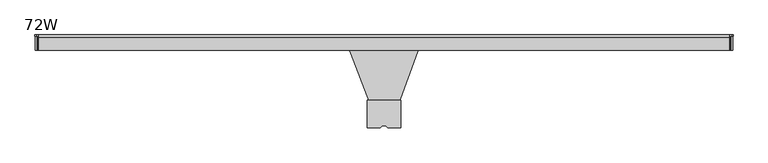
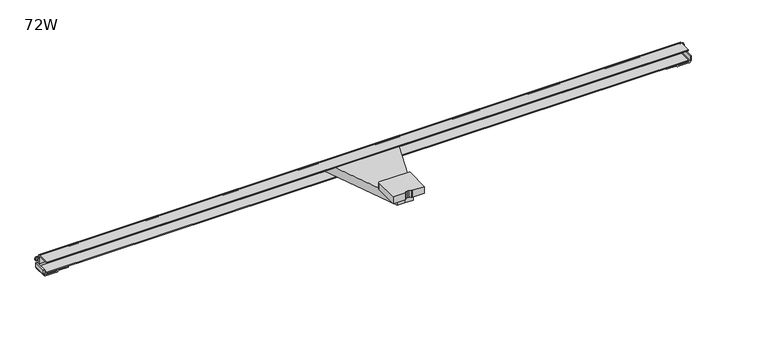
"""IFC4 building model written with IfcOpenShell, lengths in millimetres: furniture geometry, Steelcase Turnstone - Bivi - Accessories - Monitor Arm Table Mount : 72W."""

import ifcopenshell
import ifcopenshell.guid

model = None  # the IFC model being written
_history = None  # IfcOwnerHistory: only IFC2X3 demands one
_inside = {}  # id of a spatial element -> (the spatial element, [elements in it])
_under = {}  # id of a project, library or spatial element -> (it, [spatial elements below it])
_declared = {}  # id of a project -> (the project, [libraries it declares])
_typed = {}  # id of a type object -> (the type object, [elements of that type])
_made_of = {}  # id of a material, layer set ... -> (it, [elements and type objects made of it])


def new_model(schema):
    """Start an empty IFC model of exactly this schema.

    Asked for "IFC4X3", IfcOpenShell would pick the latest addendum, in which some entities
    have other attributes; the version numbers below select the first issue.
    IFC2X3 requires an IfcOwnerHistory on every rooted entity: one is made here for all.
    """
    global model, _history
    if schema == "IFC4X3":
        model = ifcopenshell.file(schema_version=(4, 3, 0, 0))
    else:
        model = ifcopenshell.file(schema=schema)
    _inside.clear()
    _under.clear()
    _declared.clear()
    _typed.clear()
    _made_of.clear()
    _history = None
    if model.schema == "IFC2X3":
        org = make("IfcOrganization", Name="unknown")
        user = make(
            "IfcPersonAndOrganization",
            ThePerson=make("IfcPerson", FamilyName="unknown"),
            TheOrganization=org,
        )
        app = make(
            "IfcApplication",
            ApplicationDeveloper=org,
            Version="unknown",
            ApplicationFullName="unknown",
            ApplicationIdentifier="unknown",
        )
        _history = make(
            "IfcOwnerHistory",
            OwningUser=user,
            OwningApplication=app,
            ChangeAction="ADDED",
            CreationDate=0,
        )
    return model


def make(cls, **values):
    """One entity of the class cls with the attributes given. An attribute that is None is left unset."""
    return model.create_entity(
        cls, **{name: value for name, value in values.items() if value is not None}
    )


def rooted(cls, **values):
    """An entity with a GlobalId (a new one), such as an element, a storey or a relation."""
    return make(cls, GlobalId=ifcopenshell.guid.new(), OwnerHistory=_history, **values)


def si_unit(unit_type, name, prefix=None):
    """IfcSIUnit, for example si_unit("LENGTHUNIT", "METRE", prefix="MILLI")."""
    return make("IfcSIUnit", UnitType=unit_type, Prefix=prefix, Name=name)


def assignment(units):
    """IfcUnitAssignment: the units of a project."""
    return None if units is None else make("IfcUnitAssignment", Units=units)


def point(xyz):
    """IfcCartesianPoint."""
    return None if xyz is None else make("IfcCartesianPoint", Coordinates=xyz)


def direction(xyz):
    """IfcDirection."""
    return None if xyz is None else make("IfcDirection", DirectionRatios=xyz)


def frame(location, z_axis=None, x_axis=None):
    """IfcAxis2Placement3D, a coordinate frame: its origin and axes. An axis left out is left unset."""
    return make(
        "IfcAxis2Placement3D",
        Location=point(location),
        Axis=direction(z_axis),
        RefDirection=direction(x_axis),
    )


def frame_2d(location, x_axis=None):
    """IfcAxis2Placement2D, a coordinate frame in the plane: its origin and x axis."""
    return make(
        "IfcAxis2Placement2D", Location=point(location), RefDirection=direction(x_axis)
    )


def origin():
    """The frame at (0, 0, 0) with its axes left unset."""
    return frame((0.0, 0.0, 0.0))


def place(relative_to, where):
    """IfcLocalPlacement: puts the frame where relative to a parent placement (None: the world)."""
    return make(
        "IfcLocalPlacement", PlacementRelTo=relative_to, RelativePlacement=where
    )


def context(
    kind, dimensions, precision=None, world=None, true_north=None, identifier=None
):
    """IfcGeometricRepresentationContext, for example the 3D "Model" context."""
    return make(
        "IfcGeometricRepresentationContext",
        ContextIdentifier=identifier,
        ContextType=kind,
        CoordinateSpaceDimension=dimensions,
        Precision=precision,
        WorldCoordinateSystem=world,
        TrueNorth=true_north,
    )


def project(units=None, contexts=None):
    """IfcProject with its units and contexts."""
    return rooted(
        "IfcProject",
        Name="project",
        RepresentationContexts=contexts,
        UnitsInContext=assignment(units),
    )


def spatial(cls, under=None, at=None, **own):
    """A site, building, storey or space (cls), placed at a placement, below another one or the project."""
    s = rooted(cls, ObjectPlacement=at, **own)
    if under is not None:
        _under.setdefault(under.id(), (under, []))[1].append(s)
    return s


def polyline(points):
    """IfcPolyline through the points."""
    return make("IfcPolyline", Points=[point(p) for p in points])


def circle_curve(where, radius):
    """IfcCircle in the frame where."""
    return make("IfcCircle", Position=where, Radius=radius)


def trimmed(basis, trim1, trim2, sense, master):
    """IfcTrimmedCurve: the piece of a basis curve between two trims."""
    return make(
        "IfcTrimmedCurve",
        BasisCurve=basis,
        Trim1=trim1,
        Trim2=trim2,
        SenseAgreement=sense,
        MasterRepresentation=master,
    )


def segment(curve, same_sense, transition):
    """IfcCompositeCurveSegment."""
    return make(
        "IfcCompositeCurveSegment",
        Transition=transition,
        SameSense=same_sense,
        ParentCurve=curve,
    )


def composite_curve(segments, self_intersect=None):
    """IfcCompositeCurve: segments joined end to end."""
    return make("IfcCompositeCurve", Segments=segments, SelfIntersect=self_intersect)


def outline(outer, holes=None, kind="AREA"):
    """IfcArbitraryClosedProfileDef: a profile drawn as a closed curve; with holes, ...WithVoids."""
    if holes is None:
        return make("IfcArbitraryClosedProfileDef", ProfileType=kind, OuterCurve=outer)
    return make(
        "IfcArbitraryProfileDefWithVoids",
        ProfileType=kind,
        OuterCurve=outer,
        InnerCurves=holes,
    )


def extrude(swept, where, along, depth):
    """IfcExtrudedAreaSolid: the profile swept, set in the frame where, extruded along a direction by depth."""
    return make(
        "IfcExtrudedAreaSolid",
        SweptArea=swept,
        Position=where,
        ExtrudedDirection=direction(along),
        Depth=depth,
    )


def shape(context_of_items, identifier, shape_type, items):
    """IfcShapeRepresentation: the items that make up one representation, for example the "Body"."""
    return make(
        "IfcShapeRepresentation",
        ContextOfItems=context_of_items,
        RepresentationIdentifier=identifier,
        RepresentationType=shape_type,
        Items=items,
    )


def source(mapping_origin, context_of_items, identifier, shape_type, items):
    """IfcRepresentationMap: a shape defined once, which mapped items show again and again."""
    return make(
        "IfcRepresentationMap",
        MappingOrigin=mapping_origin,
        MappedRepresentation=shape(context_of_items, identifier, shape_type, items),
    )


def transform(
    local_origin,
    x_axis=None,
    y_axis=None,
    z_axis=None,
    scale=None,
    scale2=None,
    scale3=None,
    uniform=True,
):
    """IfcCartesianTransformationOperator3D, or its non-uniform kind. x_axis, y_axis, z_axis: its Axis1, 2, 3."""
    if uniform:
        return make(
            "IfcCartesianTransformationOperator3D",
            Axis1=direction(x_axis),
            Axis2=direction(y_axis),
            LocalOrigin=point(local_origin),
            Scale=scale,
            Axis3=direction(z_axis),
        )
    return make(
        "IfcCartesianTransformationOperator3DnonUniform",
        Axis1=direction(x_axis),
        Axis2=direction(y_axis),
        LocalOrigin=point(local_origin),
        Scale=scale,
        Axis3=direction(z_axis),
        Scale2=scale2,
        Scale3=scale3,
    )


def mapped(mapping_source, mapping_target):
    """IfcMappedItem: shows the shape of a source again, moved by a transform."""
    return make(
        "IfcMappedItem", MappingSource=mapping_source, MappingTarget=mapping_target
    )


def made_of(thing, what):
    """Note that an element or type object is made of a material, layer set ...; save() writes the relation."""
    if what is not None:
        _made_of.setdefault(what.id(), (what, []))[1].append(thing)
    return thing


def element(
    cls,
    number,
    at=None,
    inside=None,
    cuts=None,
    type_object=None,
    material=None,
    context=None,
    identifier="Body",
    shape_type=None,
    held_by="IfcProductDefinitionShape",
    body=None,
    shapes=None,
    **own,
):
    """One element of the class cls, such as IfcWall. Its Tag is "e" and its number.

    at: its placement. inside: the storey or other place that contains it. cuts: it is an
    opening in that element (IfcRelVoidsElement). A single representation is given by context,
    identifier, shape_type and body (its items); several are given by shapes. held_by: the class
    of the entity that holds the representations. save() writes the other relations.
    """
    e = rooted(cls, Tag="e%d" % number, ObjectPlacement=at, **own)
    if body is not None:
        shapes = [shape(context, identifier, shape_type, body)]
    if shapes is not None:
        e.Representation = make(held_by, Representations=shapes)
    if inside is not None:
        _inside.setdefault(inside.id(), (inside, []))[1].append(e)
    if cuts is not None:
        rooted(
            "IfcRelVoidsElement", RelatingBuildingElement=cuts, RelatedOpeningElement=e
        )
    if type_object is not None:
        _typed.setdefault(type_object.id(), (type_object, []))[1].append(e)
    return made_of(e, material)


def aggregate(whole, parts):
    """IfcRelAggregates: a whole, such as a stair, and the parts it consists of."""
    return rooted("IfcRelAggregates", RelatingObject=whole, RelatedObjects=parts)


def save(model, path):
    """Write the relations noted so far, then the file.

    IfcRelAggregates (storeys below a building ...), IfcRelContainedInSpatialStructure (elements
    in a storey), IfcRelDefinesByType, IfcRelAssociatesMaterial and IfcRelDeclares: one each for
    every whole, place, type object, material and project.
    """
    for whole, parts in _under.values():
        aggregate(whole, parts)
    for where, things in _inside.values():
        rooted(
            "IfcRelContainedInSpatialStructure",
            RelatedElements=things,
            RelatingStructure=where,
        )
    for kind, things in _typed.values():
        rooted("IfcRelDefinesByType", RelatedObjects=things, RelatingType=kind)
    for what, things in _made_of.values():
        rooted("IfcRelAssociatesMaterial", RelatedObjects=things, RelatingMaterial=what)
    for by, libraries in _declared.values():
        rooted("IfcRelDeclares", RelatingContext=by, RelatedDefinitions=libraries)
    model.write(path)


def furniture_72w_779c4fb6(model_context):
    return source(origin(), model_context, "Body", "SweptSolid", [
        extrude(outline(composite_curve([segment(trimmed(circle_curve(frame_2d((145.6975492, -269.8839501)), 2.257898), [point((145.6975492, -267.6260521))], [point((147.9554472, -269.8838873))], False, "CARTESIAN"), True, "CONTINUOUS"), segment(polyline([(147.9554472, -269.8838873), (147.9573046, -336.626034), (115.7071375, -336.626034)]), True, "CONTINUOUS"), segment(trimmed(circle_curve(frame_2d((115.7071375, -334.3756531)), 2.2503809), [point((115.7071375, -336.626034))], [point((113.6913493, -335.3760591))], False, "CARTESIAN"), True, "CONTINUOUS"), segment(trimmed(circle_curve(frame_2d((107.6120183, -338.3931418)), 6.7868295), [point((113.6913493, -335.3760591))], [point((108.1291888, -331.6260458))], True, "CARTESIAN"), True, "CONTINUOUS"), segment(trimmed(circle_curve(frame_2d((106.0453771, -358.8923961)), 27.3458613), [point((108.1291888, -331.6260458))], [point((103.9615653, -331.6260458))], True, "CARTESIAN"), True, "CONTINUOUS"), segment(trimmed(circle_curve(frame_2d((104.4791205, -338.3981738)), 6.7918762), [point((103.9615653, -331.6260458))], [point((99.5126263, -333.7653003))], True, "CARTESIAN"), True, "CONTINUOUS"), segment(trimmed(circle_curve(frame_2d((104.4791205, -338.3981738)), 6.7918762), [point((99.5126263, -333.7653003))], [point((98.3973037, -335.3747509))], True, "CARTESIAN"), True, "CONTINUOUS"), segment(trimmed(circle_curve(frame_2d((96.3769126, -334.3703641)), 2.2562741), [point((98.3973037, -335.3747509))], [point((96.429124, -336.626034))], False, "CARTESIAN"), True, "CONTINUOUS"), segment(polyline([(96.429124, -336.626034), (64.1398681, -336.626034), (64.1398681, -269.8377216)]), True, "CONTINUOUS"), segment(trimmed(circle_curve(frame_2d((66.3515376, -269.8377216)), 2.2116695), [point((64.1398681, -269.8377216))], [point((66.3515376, -267.6260521))], False, "CARTESIAN"), True, "CONTINUOUS"), segment(polyline([(66.3515376, -267.6260521), (145.6975492, -267.6260521)]), True, "CONTINUOUS")], self_intersect=False)), frame((0.0, 0.0, 691.6834103), z_axis=(0.0, 0.0, 1.0), x_axis=(1.0, 0.0, 0.0)), (0.0, 0.0, 1.0), 19.3004151),
        extrude(outline(polyline([(128.3372341, -317.6260494), (106.045569, -317.6260494), (86.0600715, -317.6260494), (6.7352254, -107.7199906), (106.045569, -107.7199906), (204.7367915, -107.7199906), (128.3372341, -317.6260494)])), frame((0.0, 0.0, 667.38344), z_axis=(0.0, 0.0, 1.0), x_axis=(1.0, 0.0, 0.0)), (0.0, 0.0, 1.0), 24.2999702),
        extrude(outline(composite_curve([segment(polyline([(674.8332545, -762.8963634), (674.8332545, -765.936431), (663.5926927, -765.936431)]), True, "CONTINUOUS"), segment(trimmed(circle_curve(frame_2d((663.5926927, -759.1769502)), 6.7594808), [point((663.5926927, -765.936431))], [point((656.8332119, -759.1769502))], False, "CARTESIAN"), True, "CONTINUOUS"), segment(polyline([(656.8332119, -759.1769502), (656.8332119, -730.9364852)]), True, "CONTINUOUS"), segment(trimmed(circle_curve(frame_2d((662.9130886, -730.9364852)), 6.0798767), [point((656.8332119, -730.9364852))], [point((658.2556541, -727.0283904))], False, "CARTESIAN"), True, "CONTINUOUS"), segment(trimmed(circle_curve(frame_2d((650.1984046, -720.2674804)), 10.5180405), [point((658.2556541, -727.0283904))], [point((659.8731426, -724.3940551))], True, "CARTESIAN"), True, "CONTINUOUS"), segment(polyline([(659.8731426, -724.3940551), (659.8731426, -698.9940551), (662.9128796, -698.9940551), (662.9128796, -725.2067795)]), True, "CONTINUOUS"), segment(trimmed(circle_curve(frame_2d((658.7545906, -724.7825532)), 4.1798726), [point((662.9128796, -725.2067795))], [point((661.2761093, -728.1162116))], False, "CARTESIAN"), True, "CONTINUOUS"), segment(trimmed(circle_curve(frame_2d((663.4093131, -730.9364852)), 3.5361704), [point((661.2761093, -728.1162116))], [point((659.8731426, -730.9364852))], True, "CARTESIAN"), True, "CONTINUOUS"), segment(polyline([(659.8731426, -730.9364852), (659.8731426, -759.2415467)]), True, "CONTINUOUS"), segment(trimmed(circle_curve(frame_2d((663.5279593, -759.2415467)), 3.6548167), [point((659.8731426, -759.2415467))], [point((663.5279593, -762.8963634))], True, "CARTESIAN"), True, "CONTINUOUS"), segment(polyline([(663.5279593, -762.8963634), (674.8332545, -762.8963634)]), True, "CONTINUOUS")], self_intersect=False)), frame((0.0, -142.9290147, 0.0), z_axis=(0.0, 1.0, 0.0), x_axis=(0.0, 0.0, 1.0)), (0.0, 0.0, 1.0), 35.0600232),
        extrude(outline(composite_curve([segment(polyline([(674.8332545, 974.9875014), (663.5279593, 974.9875014)]), True, "CONTINUOUS"), segment(trimmed(circle_curve(frame_2d((663.5279593, 971.3326846)), 3.6548167), [point((663.5279593, 974.9875014))], [point((659.8731426, 971.3326846))], True, "CARTESIAN"), True, "CONTINUOUS"), segment(polyline([(659.8731426, 971.3326846), (659.8731426, 943.0276231)]), True, "CONTINUOUS"), segment(trimmed(circle_curve(frame_2d((663.4093131, 943.0276231)), 3.5361704), [point((659.8731426, 943.0276231))], [point((661.2761093, 940.2073495))], True, "CARTESIAN"), True, "CONTINUOUS"), segment(trimmed(circle_curve(frame_2d((658.7545906, 936.8736911)), 4.1798726), [point((661.2761093, 940.2073495))], [point((662.9128796, 937.2979175))], False, "CARTESIAN"), True, "CONTINUOUS"), segment(polyline([(662.9128796, 937.2979175), (662.9128796, 911.085193), (659.8731426, 911.085193), (659.8731426, 936.485193)]), True, "CONTINUOUS"), segment(trimmed(circle_curve(frame_2d((650.1984046, 932.3586183)), 10.5180405), [point((659.8731426, 936.485193))], [point((658.2556541, 939.1195283))], True, "CARTESIAN"), True, "CONTINUOUS"), segment(trimmed(circle_curve(frame_2d((662.9130886, 943.0276231)), 6.0798767), [point((658.2556541, 939.1195283))], [point((656.8332119, 943.0276231))], False, "CARTESIAN"), True, "CONTINUOUS"), segment(polyline([(656.8332119, 943.0276231), (656.8332119, 971.2680881)]), True, "CONTINUOUS"), segment(trimmed(circle_curve(frame_2d((663.5926927, 971.2680881)), 6.7594808), [point((656.8332119, 971.2680881))], [point((663.5926927, 978.027569))], False, "CARTESIAN"), True, "CONTINUOUS"), segment(polyline([(663.5926927, 978.027569), (674.8332545, 978.027569), (674.8332545, 974.9875014)]), True, "CONTINUOUS")], self_intersect=False)), frame((0.0, -142.9290147, 0.0), z_axis=(0.0, 1.0, 0.0), x_axis=(0.0, 0.0, 1.0)), (0.0, 0.0, 1.0), 35.0600232),
        extrude(outline(composite_curve([segment(polyline([(689.360073, 975.8776214), (689.360073, 969.5276214), (684.9088679, 969.5276214), (684.9088679, 974.0254318)]), True, "CONTINUOUS"), segment(trimmed(circle_curve(frame_2d((683.9467759, 974.0254318)), 0.962092), [point((684.9088679, 974.0254318))], [point((683.9402076, 974.9875014))], True, "CARTESIAN"), True, "CONTINUOUS"), segment(polyline([(683.9402076, 974.9875014), (682.6846117, 974.9875014)]), True, "CONTINUOUS"), segment(trimmed(circle_curve(frame_2d((682.6846117, 977.0073133)), 2.019812), [point((682.6846117, 974.9875014))], [point((682.6846117, 979.0271253))], False, "CARTESIAN"), True, "CONTINUOUS"), segment(polyline([(682.6846117, 979.0271253), (686.3728817, 979.0271253)]), True, "CONTINUOUS"), segment(trimmed(circle_curve(frame_2d((686.2061594, 975.8776214)), 3.1539136), [point((686.3728817, 979.0271253))], [point((689.360073, 975.8776214))], False, "CARTESIAN"), True, "CONTINUOUS")], self_intersect=False)), frame((0.0, -107.8816597, 0.0), z_axis=(0.0, 1.0, 0.0), x_axis=(0.0, 0.0, 1.0)), (0.0, 0.0, 1.0), 3.0328938),
        extrude(outline(composite_curve([segment(trimmed(circle_curve(frame_2d((686.2061594, -763.7864835)), 3.1539136), [point((689.360073, -763.7864835))], [point((686.3728817, -766.9359874))], False, "CARTESIAN"), True, "CONTINUOUS"), segment(polyline([(686.3728817, -766.9359874), (682.6846117, -766.9359874)]), True, "CONTINUOUS"), segment(trimmed(circle_curve(frame_2d((682.6846117, -764.9161754)), 2.019812), [point((682.6846117, -766.9359874))], [point((682.6846117, -762.8963634))], False, "CARTESIAN"), True, "CONTINUOUS"), segment(polyline([(682.6846117, -762.8963634), (683.9402076, -762.8963634)]), True, "CONTINUOUS"), segment(trimmed(circle_curve(frame_2d((683.9467759, -761.9342939)), 0.962092), [point((683.9402076, -762.8963634))], [point((684.9088679, -761.9342939))], True, "CARTESIAN"), True, "CONTINUOUS"), segment(polyline([(684.9088679, -761.9342939), (684.9088679, -757.4364835), (689.360073, -757.4364835), (689.360073, -763.7864835)]), True, "CONTINUOUS")], self_intersect=False)), frame((0.0, -107.8816597, 0.0), z_axis=(0.0, 1.0, 0.0), x_axis=(0.0, 0.0, 1.0)), (0.0, 0.0, 1.0), 3.0328938),
        extrude(outline(composite_curve([segment(polyline([(-142.9289017, 692.3731344), (-142.9289017, 695.4129307), (-110.7527955, 695.4129307)]), True, "CONTINUOUS"), segment(trimmed(circle_curve(frame_2d((-110.7527955, 689.5089011)), 5.9040296), [point((-110.7527955, 695.4129307))], [point((-104.8487659, 689.5089011))], False, "CARTESIAN"), True, "CONTINUOUS"), segment(polyline([(-104.8487659, 689.5089011), (-104.8487659, 669.2628796)]), True, "CONTINUOUS"), segment(trimmed(circle_curve(frame_2d((-111.1987659, 669.2628796)), 6.35), [point((-104.8487659, 669.2628796))], [point((-111.1987659, 662.9128796))], False, "CARTESIAN"), True, "CONTINUOUS"), segment(polyline([(-111.1987659, 662.9128796), (-142.9289017, 662.9128796), (-142.9289017, 665.7553268), (-111.1222674, 665.7553268)]), True, "CONTINUOUS"), segment(trimmed(circle_curve(frame_2d((-111.1222674, 669.1557803)), 3.4004535), [point((-111.1222674, 665.7553268))], [point((-107.7218139, 669.1557803))], True, "CARTESIAN"), True, "CONTINUOUS"), segment(polyline([(-107.7218139, 669.1557803), (-107.7218139, 688.9768169)]), True, "CONTINUOUS"), segment(trimmed(circle_curve(frame_2d((-111.1181314, 688.9768169)), 3.3963175), [point((-107.7218139, 688.9768169))], [point((-111.1181314, 692.3731344))], True, "CARTESIAN"), True, "CONTINUOUS"), segment(polyline([(-111.1181314, 692.3731344), (-142.9289017, 692.3731344)]), True, "CONTINUOUS")], self_intersect=False)), frame((-757.4368098, 0.0, 0.0), z_axis=(1.0, 0.0, 0.0), x_axis=(0.0, 1.0, 0.0)), (0.0, 0.0, 1.0), 1726.9644312),
    ])


if __name__ == "__main__":
    model = new_model("IFC4")
    model_context = context("Model", 3, world=origin())
    ifc_project = project(units=[si_unit("LENGTHUNIT", "METRE", prefix="MILLI")], contexts=[model_context])
    site = spatial("IfcSite", under=ifc_project)
    building = spatial("IfcBuilding", under=site)
    placement = place(None, origin())
    furniture_72w_shape = furniture_72w_779c4fb6(model_context)
    element("IfcFurniture", 1, ObjectType="Steelcase Turnstone - Bivi - Accessories - Monitor Arm Table Mount : 72W", at=placement, inside=building, context=model_context, shape_type="MappedRepresentation", body=[
        mapped(furniture_72w_shape, transform((0.0, 0.0, 0.0), x_axis=(1.0, 0.0, 0.0), y_axis=(0.0, 1.0, 0.0), z_axis=(0.0, 0.0, 1.0))),
    ])
    save(model, "model.ifc")
